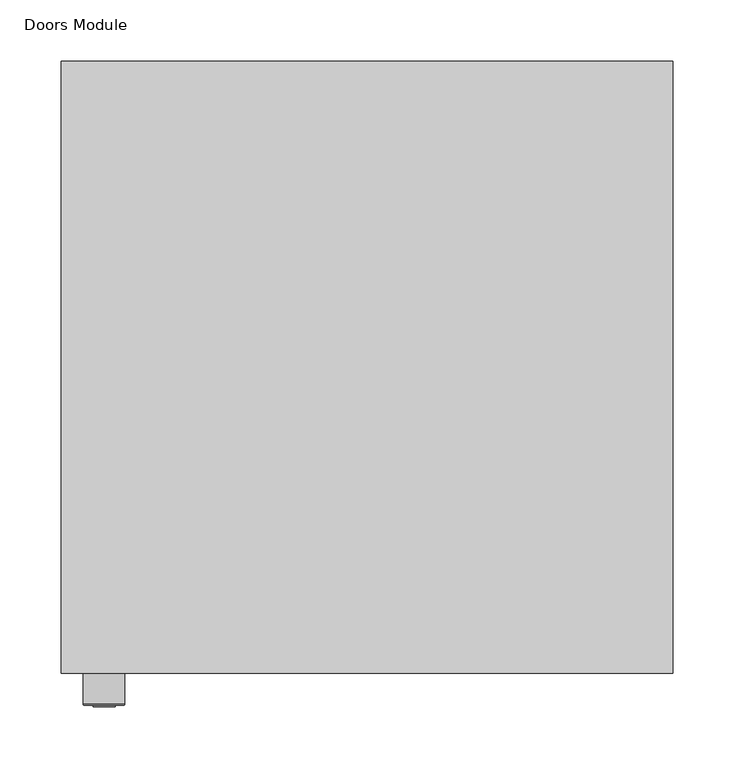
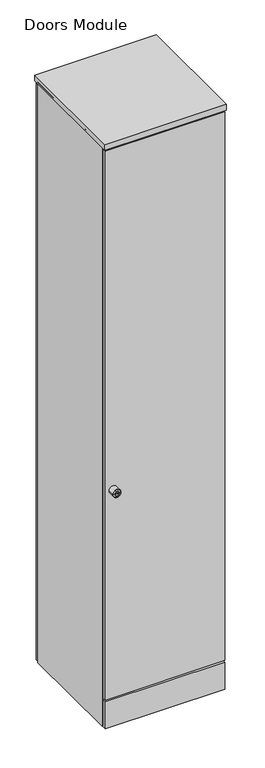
"""IFC4 building model written with IfcOpenShell, lengths in millimetres: furniture geometry, Furniture_Storage_Spacestor_SignatureStoragewall : Doors Module."""

from ifc_helpers import new_model, si_unit, point, frame, origin, origin_with_axes, place, context, project, spatial, polyline, circle_curve, ellipse_curve, trimmed, outline, extrude, source, transform, mapped, element, save
from ifc_brep_helpers import plane_surface, cylinder_surface, revolved_surface, advanced_brep


def doors_module_43d534ba(model_context):
    return source(origin(), model_context, "Body", "SolidModel", [
        extrude(outline(polyline([(496.5, 459.0), (3.5, 459.0), (3.5, 477.0), (496.5, 477.0), (496.5, 459.0)])), origin_with_axes(), (0.0, 0.0, 1.0), 2518.0),
        extrude(outline(polyline([(496.5, -18.0), (3.5, -18.0), (3.5, 0.0), (496.5, 0.0), (496.5, -18.0)])), origin_with_axes(), (0.0, 0.0, 1.0), 118.0),
        extrude(outline(polyline([(500.0, -20.5), (0.0, -20.5), (0.0, 479.5), (500.0, 479.5), (500.0, -20.5)])), frame((0.0, 0.0, 2525.0), z_axis=(0.0, 0.0, 1.0), x_axis=(1.0, 0.0, 0.0)), (0.0, 0.0, 1.0), 25.5),
        extrude(outline(polyline([(500.0, 0.0), (489.0, 0.0), (489.0, 459.0), (500.0, 459.0), (500.0, 0.0)])), origin_with_axes(), (0.0, 0.0, 1.0), 2532.5),
        extrude(outline(polyline([(11.0, 0.0), (0.0, 0.0), (0.0, 459.0), (11.0, 459.0), (11.0, 0.0)])), origin_with_axes(), (0.0, 0.0, 1.0), 2532.5),
        extrude(outline(polyline([(489.0, 0.0), (11.0, 0.0), (11.0, 459.0), (489.0, 459.0), (489.0, 0.0)])), frame((0.0, 0.0, 2023.0), z_axis=(0.0, 0.0, 1.0), x_axis=(1.0, 0.0, 0.0)), (0.0, 0.0, 1.0), 22.0),
        extrude(outline(polyline([(489.0, 0.0), (11.0, 0.0), (11.0, 459.0), (489.0, 459.0), (489.0, 0.0)])), frame((0.0, 0.0, 1639.0), z_axis=(0.0, 0.0, 1.0), x_axis=(1.0, 0.0, 0.0)), (0.0, 0.0, 1.0), 22.0),
        extrude(outline(polyline([(489.0, 0.0), (11.0, 0.0), (11.0, 459.0), (489.0, 459.0), (489.0, 0.0)])), frame((0.0, 0.0, 1255.0), z_axis=(0.0, 0.0, 1.0), x_axis=(1.0, 0.0, 0.0)), (0.0, 0.0, 1.0), 22.0),
        extrude(outline(polyline([(489.0, 0.0), (11.0, 0.0), (11.0, 459.0), (489.0, 459.0), (489.0, 0.0)])), frame((0.0, 0.0, 871.0), z_axis=(0.0, 0.0, 1.0), x_axis=(1.0, 0.0, 0.0)), (0.0, 0.0, 1.0), 22.0),
        extrude(outline(polyline([(489.0, 0.0), (11.0, 0.0), (11.0, 459.0), (489.0, 459.0), (489.0, 0.0)])), frame((0.0, 0.0, 487.0), z_axis=(0.0, 0.0, 1.0), x_axis=(1.0, 0.0, 0.0)), (0.0, 0.0, 1.0), 22.0),
        advanced_brep(
        [(52.0, -45.3116344, 1032.0), (18.0, -45.3116344, 1032.0), (18.0, -18.0, 1032.0), (52.0, -18.0, 1032.0), (35.0, -18.0, 1032.0), (43.9747319, -46.3150077, 1032.0), (26.0252681, -46.3150077, 1032.0), (19.0033734, -46.3150077, 1032.0), (50.9966266, -46.3150077, 1032.0), (43.9747319, -47.4703043, 1032.0), (26.0252681, -47.4703043, 1032.0), (39.8245152, -47.4703043, 1032.0), (39.8245152, -47.4703043, 1030.6366562), (30.1754848, -47.4703043, 1030.6366562), (30.1754848, -47.4703043, 1032.0), (30.1754848, -47.4703043, 1033.3633438), (39.8245152, -47.4703043, 1033.3633438), (30.1754848, -27.8604291, 1030.6366562), (39.8245152, -27.8604291, 1030.6366562), (39.8245152, -27.8604291, 1033.3633438), (30.1754848, -27.8604291, 1033.3633438)],
        [
            (0, 1, circle_curve(frame((35.0, -45.3116344, 1032.0), z_axis=(0.0, 1.0, 0.0), x_axis=(-1.0, 0.0, 0.0)), 17.0)),
            (1, 2),
            (2, 3, circle_curve(frame((35.0, -18.0, 1032.0), z_axis=(0.0, -1.0, 0.0), x_axis=(-1.0, 0.0, 0.0)), 17.0)),
            (3, 0),
            (1, 0, circle_curve(frame((35.0, -45.3116344, 1032.0), z_axis=(0.0, 1.0, 0.0), x_axis=(-1.0, 0.0, 0.0)), 17.0)),
            (3, 2, circle_curve(frame((35.0, -18.0, 1032.0), z_axis=(0.0, -1.0, 0.0), x_axis=(-1.0, 0.0, 0.0)), 17.0)),
            (2, 4),
            (4, 3),
            (5, 6, circle_curve(frame((35.0, -46.3150077, 1032.0), z_axis=(0.0, 1.0, 0.0), x_axis=(-1.0, 0.0, 0.0)), 8.9747319)),
            (6, 7),
            (7, 8, circle_curve(frame((35.0, -46.3150077, 1032.0), z_axis=(0.0, -1.0, 0.0), x_axis=(-1.0, 0.0, 0.0)), 15.9966266)),
            (8, 5),
            (6, 5, circle_curve(frame((35.0, -46.3150077, 1032.0), z_axis=(0.0, 1.0, 0.0), x_axis=(-1.0, 0.0, 0.0)), 8.9747319)),
            (8, 7, circle_curve(frame((35.0, -46.3150077, 1032.0), z_axis=(0.0, -1.0, 0.0), x_axis=(-1.0, 0.0, 0.0)), 15.9966266)),
            (0, 8, circle_curve(frame((50.9966266, -45.3116344, 1032.0), z_axis=(0.0, 0.0, -1.0), x_axis=(1.0, 0.0, 0.0)), 1.0033734)),
            (7, 1, circle_curve(frame((19.0033734, -45.3116344, 1032.0), z_axis=(0.0, 0.0, -1.0), x_axis=(-1.0, 0.0, 0.0)), 1.0033734)),
            (5, 9),
            (9, 10, circle_curve(frame((35.0, -47.4703043, 1032.0), z_axis=(0.0, 1.0, 0.0), x_axis=(-1.0, 0.0, 0.0)), 8.9747319)),
            (10, 6),
            (10, 9, circle_curve(frame((35.0, -47.4703043, 1032.0), z_axis=(0.0, 1.0, 0.0), x_axis=(-1.0, 0.0, 0.0)), 8.9747319)),
            (9, 11),
            (11, 12),
            (12, 13),
            (13, 14),
            (14, 10),
            (14, 15),
            (15, 16),
            (16, 11),
            (17, 18),
            (18, 19),
            (19, 20),
            (20, 17),
            (17, 13),
            (12, 18),
            (16, 19),
            (15, 20),
        ],
        [
            cylinder_surface(frame((35.0, -2627.0581012, 1032.0), z_axis=(0.0, -1.0, 0.0), x_axis=(-1.0, 0.0, 0.0)), 17.0),
            plane_surface(frame((35.0, -18.0, 1032.0), z_axis=(0.0, 1.0, 0.0), x_axis=(-1.0, 0.0, 0.0))),
            plane_surface(frame((35.0, -46.3150077, 1032.0), z_axis=(0.0, -1.0, 0.0), x_axis=(-1.0, 0.0, 0.0))),
            revolved_surface(trimmed(ellipse_curve(frame((19.0033734, -45.3116344, 1032.0), z_axis=(0.0, 0.0, 1.0), x_axis=(-1.0, 0.0, 0.0)), 1.0033734, 1.0033734), [point((18.0, -45.3116344, 1032.0))], [point((19.0033734, -46.3150077, 1032.0))], True, "CARTESIAN"), (35.0, -2627.0581012, 1032.0), (0.0, -1.0, 0.0)),
            cylinder_surface(frame((35.0, -2627.0581012, 1032.0), z_axis=(0.0, -1.0, 0.0), x_axis=(-1.0, 0.0, 0.0)), 8.9747319),
            plane_surface(frame((35.0, -47.4703043, 1032.0), z_axis=(0.0, -1.0, 0.0), x_axis=(-1.0, 0.0, 0.0))),
            plane_surface(frame((39.4565249, -27.8604291, 1030.6366562), z_axis=(0.0, -1.0, 0.0), x_axis=(-1.0, 0.0, 0.0))),
            plane_surface(frame((30.1754848, -49.2046383, 1030.6366562), z_axis=(0.0, 0.0, 1.0), x_axis=(0.0, 1.0, 0.0))),
            plane_surface(frame((39.8245152, -49.2046383, 1030.6366562), z_axis=(-1.0, 0.0, 0.0), x_axis=(0.0, 1.0, 0.0))),
            plane_surface(frame((39.8245152, -49.2046383, 1033.3633438), z_axis=(0.0, 0.0, -1.0), x_axis=(0.0, 1.0, 0.0))),
            plane_surface(frame((30.1754848, -49.2046383, 1033.3633438), z_axis=(1.0, 0.0, 0.0), x_axis=(0.0, 1.0, 0.0))),
        ],
        [
            (0, [[1, 2, 3, 4]]),
            (0, [[-2, 5, -4, 6]]),
            (1, [[-3, 7, 8]]),
            (1, [[-6, -8, -7]]),
            (2, [[9, 10, 11, 12]]),
            (2, [[-10, 13, -12, 14]]),
            (3, [[-1, 15, -11, 16]]),
            (3, [[-5, -16, -14, -15]]),
            (4, [[-9, 17, 18, 19]]),
            (4, [[-13, -19, 20, -17]]),
            (5, [[-18, 21, 22, 23, 24, 25]]),
            (5, [[-20, -25, 26, 27, 28, -21]]),
            (6, [[29, 30, 31, 32]]),
            (7, [[-29, 33, -23, 34]]),
            (8, [[-30, -34, -22, -28, 35]]),
            (9, [[-31, -35, -27, 36]]),
            (10, [[-32, -36, -26, -24, -33]]),
        ],
    ),
        extrude(outline(polyline([(3.5, -18.0), (3.5, 0.0), (496.5, 0.0), (496.5, -18.0), (3.5, -18.0)])), frame((0.0, 0.0, 125.0), z_axis=(0.0, 0.0, 1.0), x_axis=(1.0, 0.0, 0.0)), (0.0, 0.0, 1.0), 2393.0),
        extrude(outline(polyline([(496.5, -18.0), (3.5, -18.0), (3.5, 0.0), (496.5, 0.0), (496.5, -18.0)])), frame((0.0, 0.0, 125.0), z_axis=(0.0, 0.0, 1.0), x_axis=(1.0, 0.0, 0.0)), (0.0, 0.0, 1.0), 2393.0),
        extrude(outline(polyline([(489.0, 0.0), (11.0, 0.0), (11.0, 459.0), (489.0, 459.0), (489.0, 0.0)])), frame((0.0, 0.0, 110.5), z_axis=(0.0, 0.0, 1.0), x_axis=(1.0, 0.0, 0.0)), (0.0, 0.0, 1.0), 22.0),
        extrude(outline(polyline([(489.0, 0.0), (11.0, 0.0), (11.0, 459.0), (489.0, 459.0), (489.0, 0.0)])), frame((0.0, 0.0, 2510.0), z_axis=(0.0, 0.0, 1.0), x_axis=(1.0, 0.0, 0.0)), (0.0, 0.0, 1.0), 22.0),
    ])


if __name__ == "__main__":
    model = new_model("IFC4")
    model_context = context("Model", 3, world=origin())
    ifc_project = project(units=[si_unit("LENGTHUNIT", "METRE", prefix="MILLI")], contexts=[model_context])
    site = spatial("IfcSite", under=ifc_project)
    building = spatial("IfcBuilding", under=site)
    placement = place(None, origin())
    doors_module_shape = doors_module_43d534ba(model_context)
    element("IfcFurniture", 1, ObjectType="Furniture_Storage_Spacestor_SignatureStoragewall : Doors Module", at=placement, inside=building, context=model_context, shape_type="MappedRepresentation", body=[
        mapped(doors_module_shape, transform((0.0, 0.0, 0.0), x_axis=(1.0, 0.0, 0.0), y_axis=(0.0, 1.0, 0.0), z_axis=(0.0, 0.0, 1.0))),
    ])
    save(model, "model.ifc")
